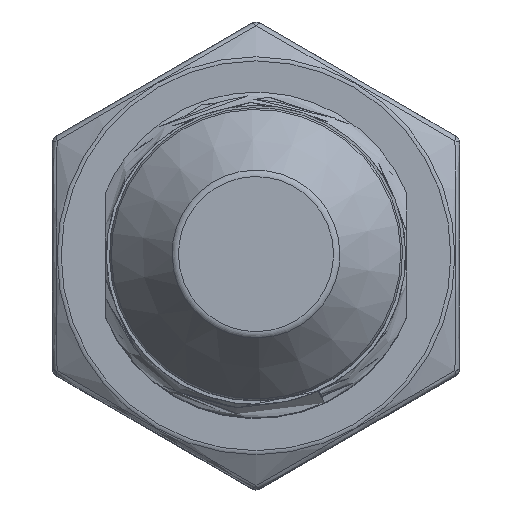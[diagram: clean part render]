
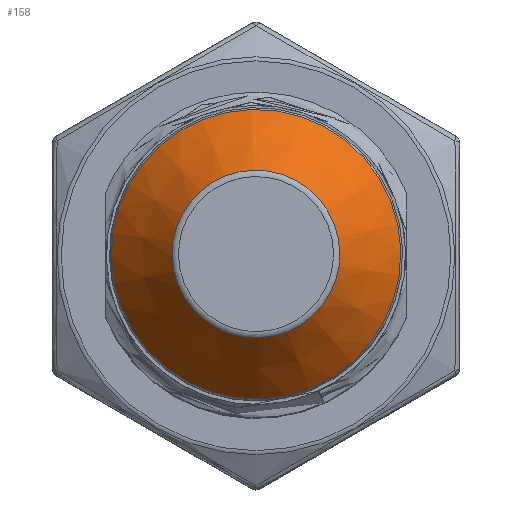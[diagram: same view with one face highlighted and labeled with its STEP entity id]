
A CAD part, top view. The second image highlights one B-rep face of the part: STEP entity #158.
In plain terms, the highlighted conical face has half-angle 38.66 degrees and reference radius 5 mm.
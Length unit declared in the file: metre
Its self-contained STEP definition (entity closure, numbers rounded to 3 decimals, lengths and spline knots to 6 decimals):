
#158=ADVANCED_FACE('',(#367,#368),#369,.T.);
#367=FACE_BOUND('',#801,.T.);
#368=FACE_OUTER_BOUND('',#802,.T.);
#369=CONICAL_SURFACE('',#803,0.005,0.675);
#801=EDGE_LOOP('',(#6905));
#802=EDGE_LOOP('',(#6906));
#803=AXIS2_PLACEMENT_3D('',#6907,#6908,#6909);
#6905=ORIENTED_EDGE('',*,*,#8308,.T.);
#6906=ORIENTED_EDGE('',*,*,#8307,.T.);
#6907=CARTESIAN_POINT('',(0.0,0.0,0.011));
#6908=DIRECTION('',(-0.0,0.0,-1.0));
#6909=DIRECTION('',(-1.0,0.0,0.0));
#8307=EDGE_CURVE('',#8753,#8753,#8754,.F.);
#8308=EDGE_CURVE('',#8755,#8755,#8756,.F.);
#8753=VERTEX_POINT('',#9478);
#8754=CIRCLE('',#9479,0.00889);
#8755=VERTEX_POINT('',#9480);
#8756=CIRCLE('',#9481,0.00515);
#9478=CARTESIAN_POINT('',(-0.00889,0.0,0.006137));
#9479=AXIS2_PLACEMENT_3D('',#15515,#15516,#15517);
#9480=CARTESIAN_POINT('',(0.00515,0.0,0.010812));
#9481=AXIS2_PLACEMENT_3D('',#15518,#15519,#15520);
#15515=CARTESIAN_POINT('',(0.0,0.0,0.006137));
#15516=DIRECTION('',(0.0,0.0,-1.0));
#15517=DIRECTION('',(-1.0,0.0,0.0));
#15518=CARTESIAN_POINT('',(0.0,0.0,0.010812));
#15519=DIRECTION('',(0.0,0.0,1.0));
#15520=DIRECTION('',(1.0,0.0,0.0));
